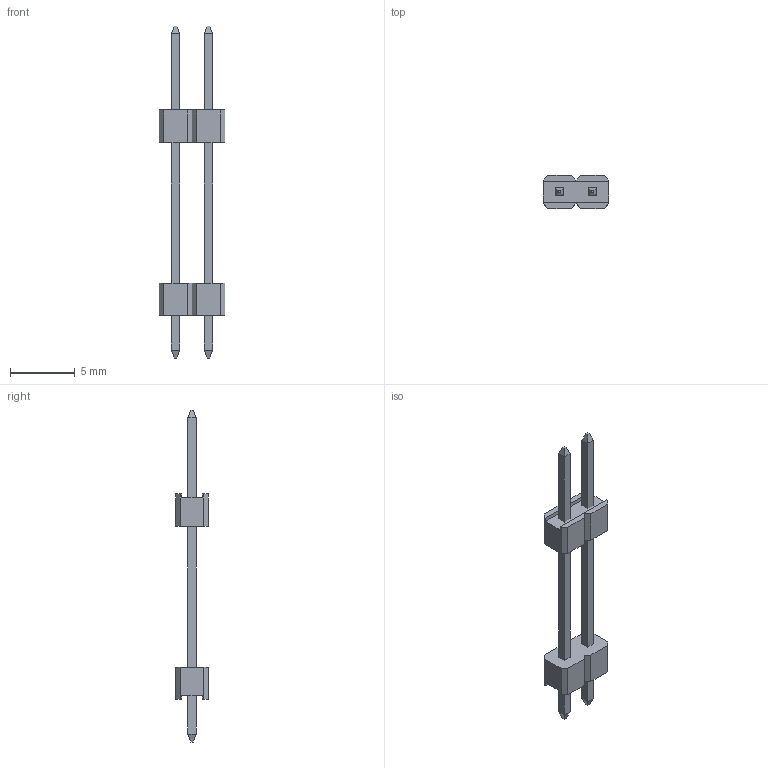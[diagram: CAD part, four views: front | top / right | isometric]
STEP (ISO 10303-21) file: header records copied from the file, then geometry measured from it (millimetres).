
FILE_DESCRIPTION (( 'STEP AP214' ), '1' );
FILE_NAME ('3M_961402DBAN-M71RC.STEP', '2015-12-18T11:20:52', ( 'pomocnik' ), ( '' ), 'SwSTEP 2.0', 'SolidWorks 2012', '' );
FILE_SCHEMA (( 'AUTOMOTIVE_DESIGN' ));
Length unit declared in the file: millimetre
Products named in the file (1): 3M_961402DBAN-M71RC
Bounding box: 5.08 x 2.54 x 25.7 mm (x, y, z)
Volume: 75.5 mm3; surface area: 244.7 mm2
Topology: 2 solids, 2 shells, 76 faces, 188 edges, 120 vertices
Faces by surface type: plane 76
Entity records: 3063 total; most frequent: CARTESIAN_POINT 385, ORIENTED_EDGE 376, DIRECTION 342, EDGE_CURVE 188, VECTOR 188, LINE 188, VERTEX_POINT 120, EDGE_LOOP 80
